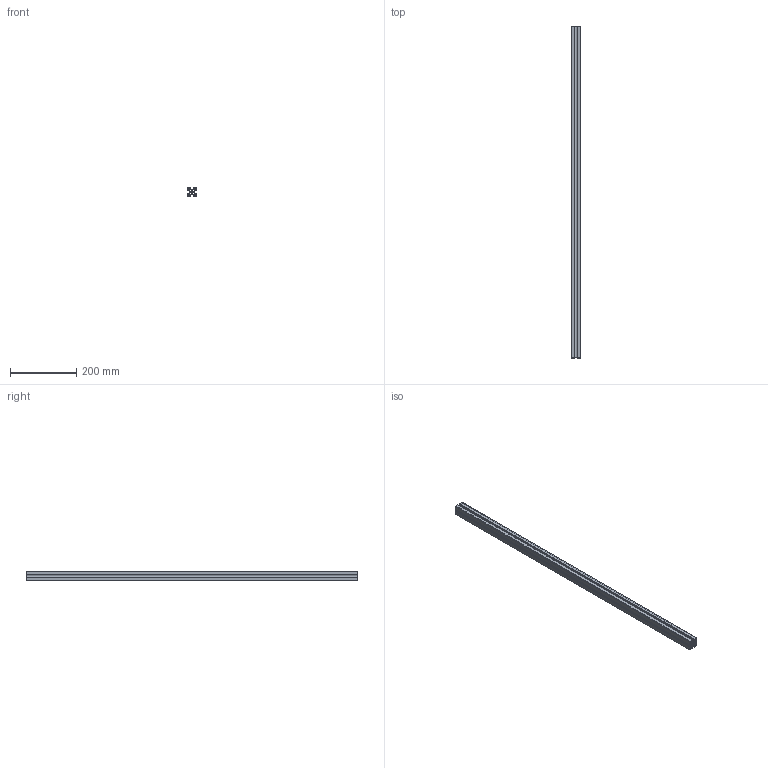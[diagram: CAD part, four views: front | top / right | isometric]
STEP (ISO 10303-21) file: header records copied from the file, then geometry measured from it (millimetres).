
FILE_DESCRIPTION (( 'STEP AP214' ), '1' );
FILE_NAME ('PEP3030-1000.STEP', '2021-03-19T06:44:01', ( '微软用户' ), ( '微软中国' ), 'SwSTEP 2.0', 'SolidWorks 2018', '' );
FILE_SCHEMA (( 'AUTOMOTIVE_DESIGN' ));
Length unit declared in the file: millimetre
Products named in the file (1): PEP3030-1000
Bounding box: 30 x 1000 x 30 mm (x, y, z)
Volume: 388226.1 mm3; surface area: 422286.2 mm2
Topology: 1 solids, 1 shells, 164 faces, 486 edges, 324 vertices
Faces by surface type: plane 106, cylinder 58
Entity records: 5556 total; most frequent: CARTESIAN_POINT 975, ORIENTED_EDGE 972, DIRECTION 932, EDGE_CURVE 486, VECTOR 370, LINE 370, VERTEX_POINT 324, AXIS2_PLACEMENT_3D 281
